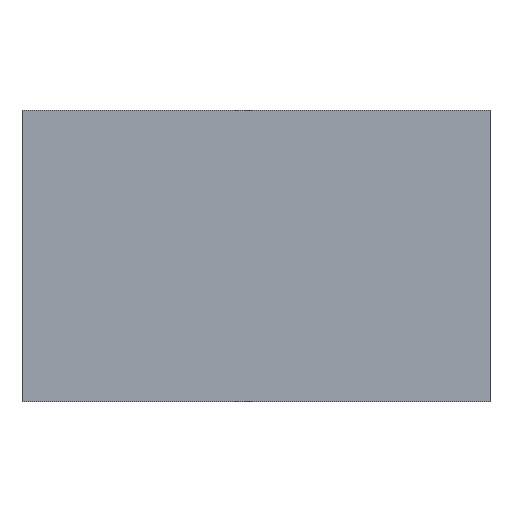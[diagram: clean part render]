
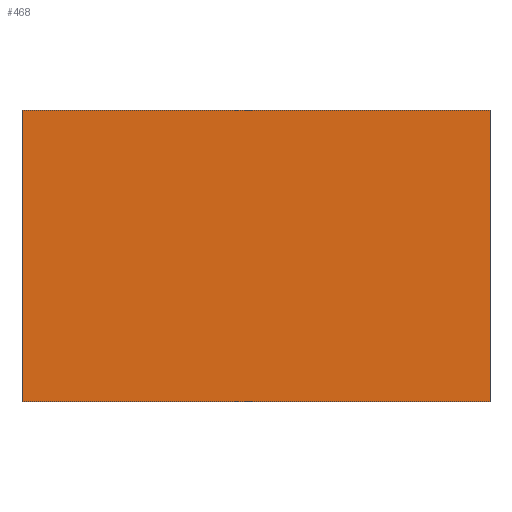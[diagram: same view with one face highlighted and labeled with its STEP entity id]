
A CAD part, front view. The second image highlights one B-rep face of the part: STEP entity #468.
In plain terms, the highlighted planar face has unit normal (0, -1, 0).
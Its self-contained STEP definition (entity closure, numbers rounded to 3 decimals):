
#468=ADVANCED_FACE('',(#858),#859,.T.);
#858=FACE_OUTER_BOUND('',#1426,.T.);
#859=PLANE('',#1427);
#1426=EDGE_LOOP('',(#1758,#1759,#1760,#1761));
#1427=AXIS2_PLACEMENT_3D('',#1762,#1763,#1764);
#1758=ORIENTED_EDGE('',*,*,#2486,.T.);
#1759=ORIENTED_EDGE('',*,*,#2482,.T.);
#1760=ORIENTED_EDGE('',*,*,#2478,.T.);
#1761=ORIENTED_EDGE('',*,*,#2474,.T.);
#1762=CARTESIAN_POINT('',(-6.5,-1.0,-14.));
#1763=DIRECTION('',(0.,-1.0,0.0));
#1764=DIRECTION('',(0.0,0.0,1.0));
#2474=EDGE_CURVE('',#2851,#2849,#2852,.T.);
#2478=EDGE_CURVE('',#2857,#2851,#2858,.T.);
#2482=EDGE_CURVE('',#2863,#2857,#2864,.T.);
#2486=EDGE_CURVE('',#2849,#2863,#2868,.T.);
#2849=VERTEX_POINT('',#3154);
#2851=VERTEX_POINT('',#3157);
#2852=LINE('',#3158,#3159);
#2857=VERTEX_POINT('',#3166);
#2858=LINE('',#3167,#3168);
#2863=VERTEX_POINT('',#3175);
#2864=LINE('',#3176,#3177);
#2868=LINE('',#3183,#3184);
#3154=CARTESIAN_POINT('',(17.0,-1.,2.5));
#3157=CARTESIAN_POINT('',(17.0,-1.,-30.5));
#3158=CARTESIAN_POINT('',(17.0,-1.,2.5));
#3159=VECTOR('',#3555,1.0);
#3166=CARTESIAN_POINT('',(-36.0,-1.,-30.5));
#3167=CARTESIAN_POINT('',(17.0,-1.,-30.5));
#3168=VECTOR('',#3558,1.0);
#3175=CARTESIAN_POINT('',(-36.0,-1.,2.5));
#3176=CARTESIAN_POINT('',(-36.0,-1.,-30.5));
#3177=VECTOR('',#3561,1.0);
#3183=CARTESIAN_POINT('',(-30.0,-1.0,2.5));
#3184=VECTOR('',#3564,1.0);
#3555=DIRECTION('',(0.0,0.0,1.0));
#3558=DIRECTION('',(1.0,0.,0.0));
#3561=DIRECTION('',(-0.0,0.0,-1.0));
#3564=DIRECTION('',(-1.0,0.,0.0));
